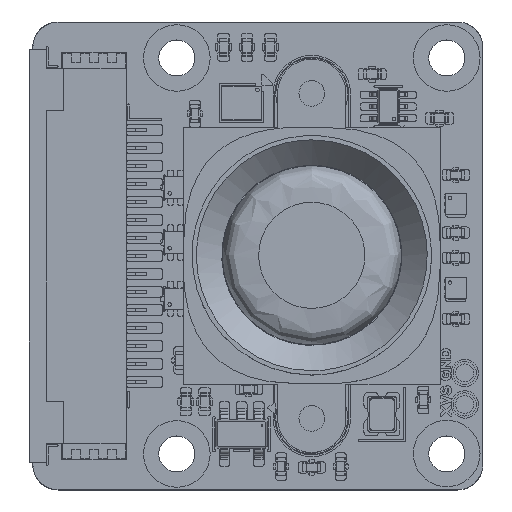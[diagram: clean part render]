
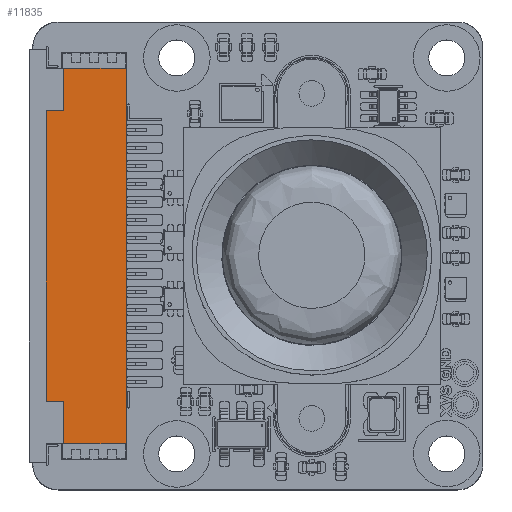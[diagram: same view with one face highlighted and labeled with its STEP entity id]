
A CAD part, top view. The second image highlights one B-rep face of the part: STEP entity #11835.
In plain terms, the highlighted planar face has unit normal (0, 0, 1).
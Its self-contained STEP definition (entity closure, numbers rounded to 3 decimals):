
#10308 = VERTEX_POINT('',#10309);
#10309 = CARTESIAN_POINT('',(0.,0.8,2.56));
#10315 = EDGE_CURVE('',#10308,#10316,#10318,.T.);
#10316 = VERTEX_POINT('',#10317);
#10317 = CARTESIAN_POINT('',(-10.435,0.8,2.56));
#10318 = LINE('',#10319,#10320);
#10319 = CARTESIAN_POINT('',(0.,0.8,2.56));
#10320 = VECTOR('',#10321,1.);
#10321 = DIRECTION('',(-1.,0.,0.));
#11801 = EDGE_CURVE('',#10316,#11802,#11804,.T.);
#11802 = VERTEX_POINT('',#11803);
#11803 = CARTESIAN_POINT('',(-10.435,-2.7,2.56));
#11804 = LINE('',#11805,#11806);
#11805 = CARTESIAN_POINT('',(-10.435,0.8,2.56));
#11806 = VECTOR('',#11807,1.);
#11807 = DIRECTION('',(0.,-1.,0.));
#11835 = ADVANCED_FACE('',(#11836),#11899,.T.);
#11836 = FACE_BOUND('',#11837,.T.);
#11837 = EDGE_LOOP('',(#11838,#11845,#11846,#11847,#11855,#11863,#11871,
    #11879,#11887,#11894));
#11838 = ORIENTED_EDGE('',*,*,#11839,.F.);
#11839 = EDGE_CURVE('',#10308,#11840,#11842,.T.);
#11840 = VERTEX_POINT('',#11841);
#11841 = CARTESIAN_POINT('',(10.435,0.8,2.56));
#11842 = B_SPLINE_CURVE_WITH_KNOTS('',1,(#11843,#11844),.UNSPECIFIED.,
  .F.,.F.,(2,2),(0.,10.435),.PIECEWISE_BEZIER_KNOTS.);
#11843 = CARTESIAN_POINT('',(0.,0.8,2.56));
#11844 = CARTESIAN_POINT('',(10.435,0.8,2.56));
#11845 = ORIENTED_EDGE('',*,*,#10315,.T.);
#11846 = ORIENTED_EDGE('',*,*,#11801,.T.);
#11847 = ORIENTED_EDGE('',*,*,#11848,.T.);
#11848 = EDGE_CURVE('',#11802,#11849,#11851,.T.);
#11849 = VERTEX_POINT('',#11850);
#11850 = CARTESIAN_POINT('',(-8.09,-2.7,2.56));
#11851 = LINE('',#11852,#11853);
#11852 = CARTESIAN_POINT('',(-10.435,-2.7,2.56));
#11853 = VECTOR('',#11854,1.);
#11854 = DIRECTION('',(1.,0.,0.));
#11855 = ORIENTED_EDGE('',*,*,#11856,.T.);
#11856 = EDGE_CURVE('',#11849,#11857,#11859,.T.);
#11857 = VERTEX_POINT('',#11858);
#11858 = CARTESIAN_POINT('',(-8.09,-3.65,2.56));
#11859 = LINE('',#11860,#11861);
#11860 = CARTESIAN_POINT('',(-8.09,-1.75,2.56));
#11861 = VECTOR('',#11862,1.);
#11862 = DIRECTION('',(0.,-1.,0.));
#11863 = ORIENTED_EDGE('',*,*,#11864,.T.);
#11864 = EDGE_CURVE('',#11857,#11865,#11867,.T.);
#11865 = VERTEX_POINT('',#11866);
#11866 = CARTESIAN_POINT('',(0.,-3.65,2.56));
#11867 = LINE('',#11868,#11869);
#11868 = CARTESIAN_POINT('',(-8.09,-3.65,2.56));
#11869 = VECTOR('',#11870,1.);
#11870 = DIRECTION('',(1.,0.,0.));
#11871 = ORIENTED_EDGE('',*,*,#11872,.T.);
#11872 = EDGE_CURVE('',#11865,#11873,#11875,.T.);
#11873 = VERTEX_POINT('',#11874);
#11874 = CARTESIAN_POINT('',(8.09,-3.65,2.56));
#11875 = LINE('',#11876,#11877);
#11876 = CARTESIAN_POINT('',(-8.09,-3.65,2.56));
#11877 = VECTOR('',#11878,1.);
#11878 = DIRECTION('',(1.,0.,0.));
#11879 = ORIENTED_EDGE('',*,*,#11880,.T.);
#11880 = EDGE_CURVE('',#11873,#11881,#11883,.T.);
#11881 = VERTEX_POINT('',#11882);
#11882 = CARTESIAN_POINT('',(8.09,-2.7,2.56));
#11883 = LINE('',#11884,#11885);
#11884 = CARTESIAN_POINT('',(8.09,-3.65,2.56));
#11885 = VECTOR('',#11886,1.);
#11886 = DIRECTION('',(0.,1.,0.));
#11887 = ORIENTED_EDGE('',*,*,#11888,.F.);
#11888 = EDGE_CURVE('',#11889,#11881,#11891,.T.);
#11889 = VERTEX_POINT('',#11890);
#11890 = CARTESIAN_POINT('',(10.435,-2.7,2.56));
#11891 = B_SPLINE_CURVE_WITH_KNOTS('',1,(#11892,#11893),.UNSPECIFIED.,
  .F.,.F.,(2,2),(0.,10.435),.PIECEWISE_BEZIER_KNOTS.);
#11892 = CARTESIAN_POINT('',(10.435,-2.7,2.56));
#11893 = CARTESIAN_POINT('',(0.,-2.7,2.56));
#11894 = ORIENTED_EDGE('',*,*,#11895,.F.);
#11895 = EDGE_CURVE('',#11840,#11889,#11896,.T.);
#11896 = B_SPLINE_CURVE_WITH_KNOTS('',1,(#11897,#11898),.UNSPECIFIED.,
  .F.,.F.,(2,2),(0.,3.5),.PIECEWISE_BEZIER_KNOTS.);
#11897 = CARTESIAN_POINT('',(10.435,0.8,2.56));
#11898 = CARTESIAN_POINT('',(10.435,-2.7,2.56));
#11899 = PLANE('',#11900);
#11900 = AXIS2_PLACEMENT_3D('',#11901,#11902,#11903);
#11901 = CARTESIAN_POINT('',(-0.45,-1.271,2.56));
#11902 = DIRECTION('',(0.,0.,1.));
#11903 = DIRECTION('',(0.,-1.,0.));
